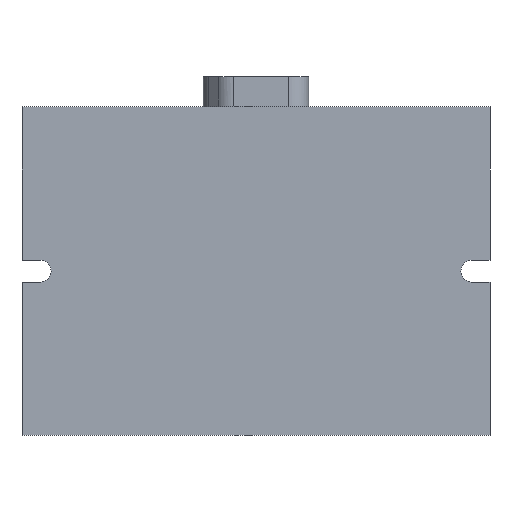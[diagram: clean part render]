
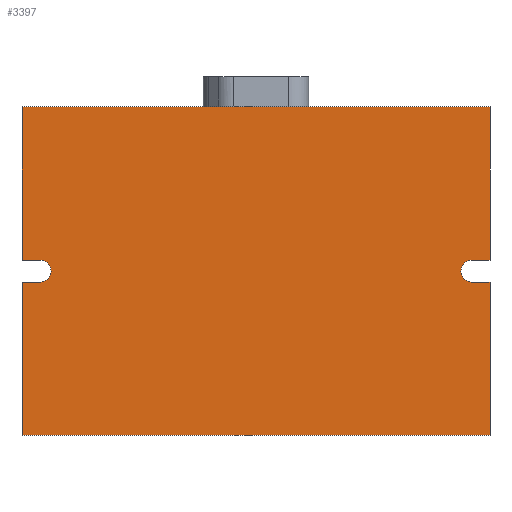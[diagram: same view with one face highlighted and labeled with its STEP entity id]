
A CAD part, front view. The second image highlights one B-rep face of the part: STEP entity #3397.
In plain terms, the highlighted planar face has unit normal (0, -1, 0).
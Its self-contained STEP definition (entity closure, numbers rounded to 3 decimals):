
#10=DIRECTION('',(1.,0.,0.));
#11=VECTOR('',#10,114.3);
#12=CARTESIAN_POINT('',(-57.15,0.,-40.13));
#13=LINE('',#12,#11);
#1288=DIRECTION('',(1.,0.,0.));
#1289=VECTOR('',#1288,4.445);
#1290=CARTESIAN_POINT('',(-57.15,0.,-2.665));
#1291=LINE('',#1290,#1289);
#1292=CARTESIAN_POINT('',(-52.705,0.,0.));
#1293=DIRECTION('',(0.,1.,0.));
#1294=DIRECTION('',(0.,0.,1.));
#1295=AXIS2_PLACEMENT_3D('',#1292,#1293,#1294);
#1297=DIRECTION('',(1.,0.,0.));
#1298=VECTOR('',#1297,4.445);
#1299=CARTESIAN_POINT('',(-57.15,0.,2.665));
#1300=LINE('',#1299,#1298);
#1301=DIRECTION('',(0.,0.,1.));
#1302=VECTOR('',#1301,37.465);
#1303=CARTESIAN_POINT('',(-57.15,0.,2.665));
#1304=LINE('',#1303,#1302);
#1305=DIRECTION('',(-1.,0.,0.));
#1306=VECTOR('',#1305,4.445);
#1307=CARTESIAN_POINT('',(57.15,0.,2.665));
#1308=LINE('',#1307,#1306);
#1309=CARTESIAN_POINT('',(52.705,0.,0.));
#1310=DIRECTION('',(0.,1.,0.));
#1311=DIRECTION('',(0.,0.,-1.));
#1312=AXIS2_PLACEMENT_3D('',#1309,#1310,#1311);
#1314=DIRECTION('',(-1.,0.,0.));
#1315=VECTOR('',#1314,4.445);
#1316=CARTESIAN_POINT('',(57.15,0.,-2.665));
#1317=LINE('',#1316,#1315);
#1318=DIRECTION('',(0.,0.,1.));
#1319=VECTOR('',#1318,37.465);
#1320=CARTESIAN_POINT('',(-57.15,0.,-40.13));
#1321=LINE('',#1320,#1319);
#1330=DIRECTION('',(1.,0.,0.));
#1331=VECTOR('',#1330,114.3);
#1332=CARTESIAN_POINT('',(-57.15,0.,40.13));
#1333=LINE('',#1332,#1331);
#1342=DIRECTION('',(0.,0.,1.));
#1343=VECTOR('',#1342,37.465);
#1344=CARTESIAN_POINT('',(57.15,0.,2.665));
#1345=LINE('',#1344,#1343);
#1350=DIRECTION('',(0.,0.,1.));
#1351=VECTOR('',#1350,37.465);
#1352=CARTESIAN_POINT('',(57.15,0.,-40.13));
#1353=LINE('',#1352,#1351);
#1366=CARTESIAN_POINT('',(-57.15,0.,-40.13));
#1367=VERTEX_POINT('',#1366);
#1368=CARTESIAN_POINT('',(57.15,0.,-40.13));
#1369=VERTEX_POINT('',#1368);
#1374=CARTESIAN_POINT('',(-57.15,0.,40.13));
#1375=VERTEX_POINT('',#1374);
#1376=CARTESIAN_POINT('',(57.15,0.,40.13));
#1377=VERTEX_POINT('',#1376);
#1711=CARTESIAN_POINT('',(-57.15,0.,-2.665));
#1712=VERTEX_POINT('',#1711);
#1713=CARTESIAN_POINT('',(-57.15,0.,2.665));
#1714=VERTEX_POINT('',#1713);
#1715=CARTESIAN_POINT('',(-52.705,0.,-2.665));
#1716=VERTEX_POINT('',#1715);
#1717=CARTESIAN_POINT('',(-52.705,0.,2.665));
#1718=VERTEX_POINT('',#1717);
#1719=CARTESIAN_POINT('',(52.705,0.,-2.665));
#1720=CARTESIAN_POINT('',(52.705,0.,2.665));
#1721=VERTEX_POINT('',#1719);
#1722=VERTEX_POINT('',#1720);
#1723=CARTESIAN_POINT('',(57.15,0.,2.665));
#1724=VERTEX_POINT('',#1723);
#1725=CARTESIAN_POINT('',(57.15,0.,-2.665));
#1726=VERTEX_POINT('',#1725);
#3372=CARTESIAN_POINT('',(-57.15,0.,-40.13));
#3373=DIRECTION('',(0.,-1.,0.));
#3374=DIRECTION('',(1.,0.,0.));
#3375=AXIS2_PLACEMENT_3D('',#3372,#3373,#3374);
#3376=PLANE('',#3375);
#3377=ORIENTED_EDGE('',*,*,#3310,.T.);
#3378=ORIENTED_EDGE('',*,*,#3325,.F.);
#3379=ORIENTED_EDGE('',*,*,#3339,.F.);
#3380=ORIENTED_EDGE('',*,*,#3367,.T.);
#3382=ORIENTED_EDGE('',*,*,#3381,.T.);
#3384=ORIENTED_EDGE('',*,*,#3383,.F.);
#3386=ORIENTED_EDGE('',*,*,#3385,.T.);
#3388=ORIENTED_EDGE('',*,*,#3387,.F.);
#3390=ORIENTED_EDGE('',*,*,#3389,.F.);
#3392=ORIENTED_EDGE('',*,*,#3391,.F.);
#3393=ORIENTED_EDGE('',*,*,#1736,.F.);
#3394=ORIENTED_EDGE('',*,*,#3351,.T.);
#3395=EDGE_LOOP('',(#3377,#3378,#3379,#3380,#3382,#3384,#3386,#3388,#3390,#3392,
#3393,#3394));
#3396=FACE_OUTER_BOUND('',#3395,.F.);
#3397=ADVANCED_FACE('',(#3396),#3376,.T.);
#1296=CIRCLE('',#1295,2.665);
#1313=CIRCLE('',#1312,2.665);
#1736=EDGE_CURVE('',#1367,#1369,#13,.T.);
#3310=EDGE_CURVE('',#1712,#1716,#1291,.T.);
#3325=EDGE_CURVE('',#1718,#1716,#1296,.T.);
#3339=EDGE_CURVE('',#1714,#1718,#1300,.T.);
#3351=EDGE_CURVE('',#1367,#1712,#1321,.T.);
#3367=EDGE_CURVE('',#1714,#1375,#1304,.T.);
#3381=EDGE_CURVE('',#1375,#1377,#1333,.T.);
#3383=EDGE_CURVE('',#1724,#1377,#1345,.T.);
#3385=EDGE_CURVE('',#1724,#1722,#1308,.T.);
#3387=EDGE_CURVE('',#1721,#1722,#1313,.T.);
#3389=EDGE_CURVE('',#1726,#1721,#1317,.T.);
#3391=EDGE_CURVE('',#1369,#1726,#1353,.T.);
